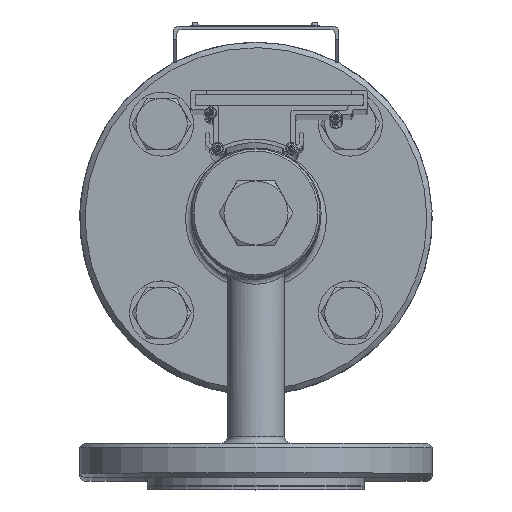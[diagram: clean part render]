
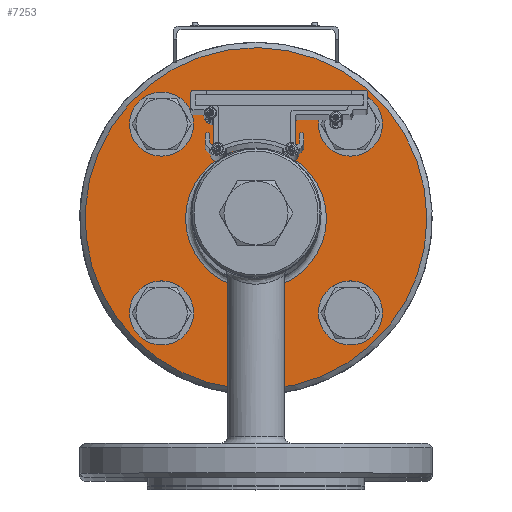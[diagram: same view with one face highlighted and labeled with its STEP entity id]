
A CAD part, top view. The second image highlights one B-rep face of the part: STEP entity #7253.
In plain terms, the highlighted planar face has unit normal (0, 0, 1).
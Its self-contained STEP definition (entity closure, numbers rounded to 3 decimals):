
#379=FACE_BOUND('',#1262,.T.);
#380=FACE_BOUND('',#1263,.T.);
#381=FACE_BOUND('',#1264,.T.);
#382=FACE_BOUND('',#1265,.T.);
#383=FACE_BOUND('',#1266,.T.);
#502=PLANE('',#7779);
#752=FACE_OUTER_BOUND('',#1261,.T.);
#1261=EDGE_LOOP('',(#5145));
#1262=EDGE_LOOP('',(#5146));
#1263=EDGE_LOOP('',(#5147));
#1264=EDGE_LOOP('',(#5148));
#1265=EDGE_LOOP('',(#5149));
#1266=EDGE_LOOP('',(#5150));
#1859=CIRCLE('',#7778,10.);
#1860=CIRCLE('',#7780,80.);
#1861=CIRCLE('',#7781,10.);
#1862=CIRCLE('',#7782,10.);
#1863=CIRCLE('',#7783,33.);
#1864=CIRCLE('',#7784,10.);
#3353=VERTEX_POINT('',#11051);
#3354=VERTEX_POINT('',#11054);
#3355=VERTEX_POINT('',#11056);
#3356=VERTEX_POINT('',#11058);
#3357=VERTEX_POINT('',#11060);
#3358=VERTEX_POINT('',#11062);
#4079=EDGE_CURVE('',#3353,#3353,#1859,.T.);
#4080=EDGE_CURVE('',#3354,#3354,#1860,.T.);
#4081=EDGE_CURVE('',#3355,#3355,#1861,.T.);
#4082=EDGE_CURVE('',#3356,#3356,#1862,.T.);
#4083=EDGE_CURVE('',#3357,#3357,#1863,.T.);
#4084=EDGE_CURVE('',#3358,#3358,#1864,.T.);
#5145=ORIENTED_EDGE('',*,*,#4080,.F.);
#5146=ORIENTED_EDGE('',*,*,#4081,.F.);
#5147=ORIENTED_EDGE('',*,*,#4082,.F.);
#5148=ORIENTED_EDGE('',*,*,#4083,.F.);
#5149=ORIENTED_EDGE('',*,*,#4084,.F.);
#5150=ORIENTED_EDGE('',*,*,#4079,.F.);
#7253=ADVANCED_FACE('',(#752,#379,#380,#381,#382,#383),#502,.T.);
#7778=AXIS2_PLACEMENT_3D('',#11052,#8777,#8778);
#7779=AXIS2_PLACEMENT_3D('',#11053,#8779,#8780);
#7780=AXIS2_PLACEMENT_3D('',#11055,#8781,#8782);
#7781=AXIS2_PLACEMENT_3D('',#11057,#8783,#8784);
#7782=AXIS2_PLACEMENT_3D('',#11059,#8785,#8786);
#7783=AXIS2_PLACEMENT_3D('',#11061,#8787,#8788);
#7784=AXIS2_PLACEMENT_3D('',#11063,#8789,#8790);
#8777=DIRECTION('center_axis',(0.,0.,1.));
#8778=DIRECTION('ref_axis',(1.,0.,0.));
#8779=DIRECTION('center_axis',(0.,0.,1.));
#8780=DIRECTION('ref_axis',(1.,0.,0.));
#8781=DIRECTION('center_axis',(0.,0.,-1.));
#8782=DIRECTION('ref_axis',(1.,0.,0.));
#8783=DIRECTION('center_axis',(0.,0.,1.));
#8784=DIRECTION('ref_axis',(1.,0.,0.));
#8785=DIRECTION('center_axis',(0.,0.,1.));
#8786=DIRECTION('ref_axis',(1.,0.,0.));
#8787=DIRECTION('center_axis',(0.,0.,1.));
#8788=DIRECTION('ref_axis',(1.,0.,0.));
#8789=DIRECTION('center_axis',(0.,0.,1.));
#8790=DIRECTION('ref_axis',(1.,0.,0.));
#11051=CARTESIAN_POINT('',(-54.194,44.194,20.));
#11052=CARTESIAN_POINT('Origin',(-44.194,44.194,20.));
#11053=CARTESIAN_POINT('Origin',(0.,0.,
20.));
#11054=CARTESIAN_POINT('',(-80.,0.,20.));
#11055=CARTESIAN_POINT('Origin',(0.,0.,20.));
#11056=CARTESIAN_POINT('',(34.194,44.194,20.));
#11057=CARTESIAN_POINT('Origin',(44.194,44.194,20.));
#11058=CARTESIAN_POINT('',(-54.194,-44.194,20.));
#11059=CARTESIAN_POINT('Origin',(-44.194,-44.194,20.));
#11060=CARTESIAN_POINT('',(-33.,0.,20.));
#11061=CARTESIAN_POINT('Origin',(0.,0.,20.));
#11062=CARTESIAN_POINT('',(34.194,-44.194,20.));
#11063=CARTESIAN_POINT('Origin',(44.194,-44.194,20.));
